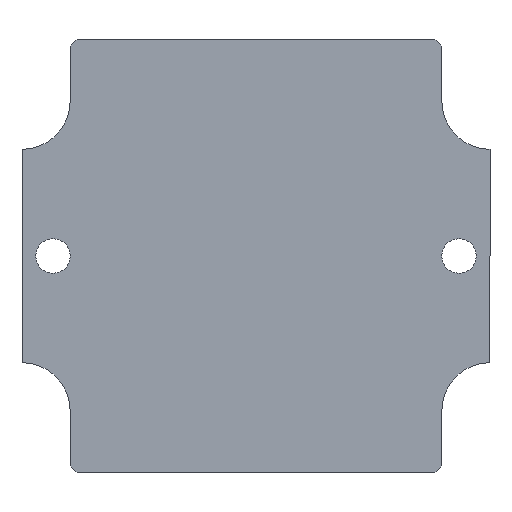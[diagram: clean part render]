
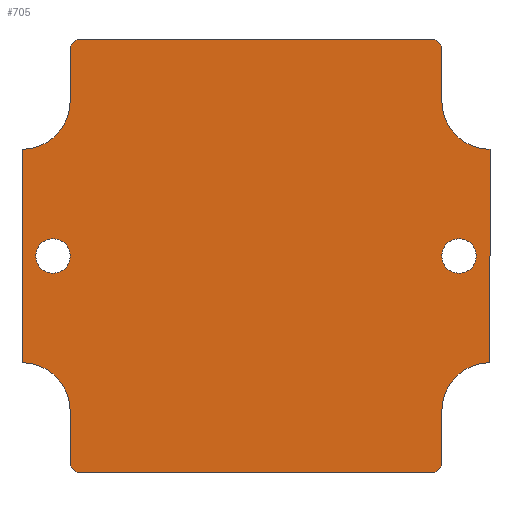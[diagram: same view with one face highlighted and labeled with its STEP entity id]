
A CAD part, top view. The second image highlights one B-rep face of the part: STEP entity #705.
In plain terms, the highlighted planar face has unit normal (0, 0, 1).
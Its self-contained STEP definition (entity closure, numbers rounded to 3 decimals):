
#49=CARTESIAN_POINT('',(28.825,18.216,0.5));
#50=VERTEX_POINT('',#49);
#51=CARTESIAN_POINT('',(29.825,17.216,0.5));
#52=VERTEX_POINT('',#51);
#53=CARTESIAN_POINT('',(28.825,18.216,0.5));
#54=DIRECTION('',(0.707,-0.707,0.0));
#55=VECTOR('',#54,1.414);
#56=LINE('',#53,#55);
#57=EDGE_CURVE('',#50,#52,#56,.T.);
#98=CARTESIAN_POINT('',(-23.175,18.216,0.5));
#99=VERTEX_POINT('',#98);
#106=CARTESIAN_POINT('',(-23.175,18.216,0.5));
#107=DIRECTION('',(1.0,0.0,0.0));
#108=VECTOR('',#107,52.0);
#109=LINE('',#106,#108);
#110=EDGE_CURVE('',#99,#50,#109,.T.);
#266=CARTESIAN_POINT('',(-23.175,-44.784,0.5));
#267=VERTEX_POINT('',#266);
#268=CARTESIAN_POINT('',(-24.175,-43.784,0.5));
#269=VERTEX_POINT('',#268);
#270=CARTESIAN_POINT('',(-23.175,-44.784,0.5));
#271=DIRECTION('',(-0.707,0.707,0.0));
#272=VECTOR('',#271,1.414);
#273=LINE('',#270,#272);
#274=EDGE_CURVE('',#267,#269,#273,.T.);
#299=CARTESIAN_POINT('',(28.825,-44.784,0.5));
#300=VERTEX_POINT('',#299);
#307=CARTESIAN_POINT('',(28.825,-44.784,0.5));
#308=DIRECTION('',(-1.0,0.0,0.0));
#309=VECTOR('',#308,52.);
#310=LINE('',#307,#309);
#311=EDGE_CURVE('',#300,#267,#310,.T.);
#321=CARTESIAN_POINT('',(29.825,-43.784,0.5));
#322=VERTEX_POINT('',#321);
#323=CARTESIAN_POINT('',(29.825,-43.784,0.5));
#324=DIRECTION('',(-0.707,-0.707,0.0));
#325=VECTOR('',#324,1.414);
#326=LINE('',#323,#325);
#327=EDGE_CURVE('',#322,#300,#326,.T.);
#347=CARTESIAN_POINT('',(29.825,-35.784,0.5));
#348=VERTEX_POINT('',#347);
#355=CARTESIAN_POINT('',(29.825,-35.784,0.5));
#356=DIRECTION('',(0.0,-1.0,0.0));
#357=VECTOR('',#356,8.);
#358=LINE('',#355,#357);
#359=EDGE_CURVE('',#348,#322,#358,.T.);
#369=CARTESIAN_POINT('',(-24.175,17.216,0.5));
#370=VERTEX_POINT('',#369);
#371=CARTESIAN_POINT('',(-24.175,17.216,0.5));
#372=DIRECTION('',(0.707,0.707,0.0));
#373=VECTOR('',#372,1.414);
#374=LINE('',#371,#373);
#375=EDGE_CURVE('',#370,#99,#374,.T.);
#417=CARTESIAN_POINT('',(-24.175,-13.284,0.5));
#418=VERTEX_POINT('',#417);
#419=CARTESIAN_POINT('',(-26.675,-13.284,0.5));
#420=DIRECTION('',(0.0,0.0,-1.0));
#421=DIRECTION('',(1.0,0.0,0.0));
#422=AXIS2_PLACEMENT_3D('',#419,#420,#421);
#423=CIRCLE('',#422,2.5);
#424=EDGE_CURVE('',#418,#418,#423,.T.);
#458=CARTESIAN_POINT('',(34.825,-13.284,0.5));
#459=VERTEX_POINT('',#458);
#460=CARTESIAN_POINT('',(32.325,-13.284,0.5));
#461=DIRECTION('',(0.0,0.0,-1.0));
#462=DIRECTION('',(1.0,0.0,0.0));
#463=AXIS2_PLACEMENT_3D('',#460,#461,#462);
#464=CIRCLE('',#463,2.5);
#465=EDGE_CURVE('',#459,#459,#464,.T.);
#475=CARTESIAN_POINT('',(29.825,9.216,0.5));
#476=VERTEX_POINT('',#475);
#477=CARTESIAN_POINT('',(36.825,2.216,0.5));
#478=VERTEX_POINT('',#477);
#479=CARTESIAN_POINT('',(36.825,9.216,0.5));
#480=DIRECTION('',(0.0,0.0,1.0));
#481=DIRECTION('',(1.0,0.0,0.0));
#482=AXIS2_PLACEMENT_3D('',#479,#480,#481);
#483=CIRCLE('',#482,7.);
#484=EDGE_CURVE('',#476,#478,#483,.T.);
#507=CARTESIAN_POINT('',(36.825,-28.784,0.5));
#508=VERTEX_POINT('',#507);
#509=CARTESIAN_POINT('',(36.825,2.216,0.5));
#510=DIRECTION('',(0.0,-1.0,0.0));
#511=VECTOR('',#510,31.0);
#512=LINE('',#509,#511);
#513=EDGE_CURVE('',#478,#508,#512,.T.);
#531=CARTESIAN_POINT('',(36.825,-35.784,0.5));
#532=DIRECTION('',(0.0,0.0,1.0));
#533=DIRECTION('',(0.0,-1.0,0.0));
#534=AXIS2_PLACEMENT_3D('',#531,#532,#533);
#535=CIRCLE('',#534,7.);
#536=EDGE_CURVE('',#508,#348,#535,.T.);
#550=CARTESIAN_POINT('',(-24.175,-35.784,0.5));
#551=VERTEX_POINT('',#550);
#552=CARTESIAN_POINT('',(-24.175,-43.784,0.5));
#553=DIRECTION('',(0.0,1.0,0.0));
#554=VECTOR('',#553,8.);
#555=LINE('',#552,#554);
#556=EDGE_CURVE('',#269,#551,#555,.T.);
#573=CARTESIAN_POINT('',(-31.175,-28.784,0.5));
#574=VERTEX_POINT('',#573);
#575=CARTESIAN_POINT('',(-31.175,-35.784,0.5));
#576=DIRECTION('',(0.0,0.0,1.0));
#577=DIRECTION('',(-1.0,0.0,0.0));
#578=AXIS2_PLACEMENT_3D('',#575,#576,#577);
#579=CIRCLE('',#578,7.);
#580=EDGE_CURVE('',#551,#574,#579,.T.);
#598=CARTESIAN_POINT('',(-31.175,2.216,0.5));
#599=VERTEX_POINT('',#598);
#600=CARTESIAN_POINT('',(-31.175,-28.784,0.5));
#601=DIRECTION('',(0.0,1.0,0.0));
#602=VECTOR('',#601,31.);
#603=LINE('',#600,#602);
#604=EDGE_CURVE('',#574,#599,#603,.T.);
#622=CARTESIAN_POINT('',(-24.175,9.216,0.5));
#623=VERTEX_POINT('',#622);
#624=CARTESIAN_POINT('',(-31.175,9.216,0.5));
#625=DIRECTION('',(0.0,0.0,1.0));
#626=DIRECTION('',(0.0,1.0,0.0));
#627=AXIS2_PLACEMENT_3D('',#624,#625,#626);
#628=CIRCLE('',#627,7.);
#629=EDGE_CURVE('',#599,#623,#628,.T.);
#650=CARTESIAN_POINT('',(-24.175,9.216,0.5));
#651=DIRECTION('',(0.0,1.0,0.0));
#652=VECTOR('',#651,8.);
#653=LINE('',#650,#652);
#654=EDGE_CURVE('',#623,#370,#653,.T.);
#665=CARTESIAN_POINT('',(29.825,17.216,0.5));
#666=DIRECTION('',(0.0,-1.0,0.0));
#667=VECTOR('',#666,8.0);
#668=LINE('',#665,#667);
#669=EDGE_CURVE('',#52,#476,#668,.T.);
#676=CARTESIAN_POINT('',(2.825,-13.284,0.5));
#677=DIRECTION('',(0.0,0.0,1.0));
#678=DIRECTION('',(1.0,0.0,0.0));
#679=AXIS2_PLACEMENT_3D('',#676,#677,#678);
#680=PLANE('',#679);
#681=ORIENTED_EDGE('',*,*,#57,.F.);
#682=ORIENTED_EDGE('',*,*,#110,.F.);
#683=ORIENTED_EDGE('',*,*,#375,.F.);
#684=ORIENTED_EDGE('',*,*,#654,.F.);
#685=ORIENTED_EDGE('',*,*,#629,.F.);
#686=ORIENTED_EDGE('',*,*,#604,.F.);
#687=ORIENTED_EDGE('',*,*,#580,.F.);
#688=ORIENTED_EDGE('',*,*,#556,.F.);
#689=ORIENTED_EDGE('',*,*,#274,.F.);
#690=ORIENTED_EDGE('',*,*,#311,.F.);
#691=ORIENTED_EDGE('',*,*,#327,.F.);
#692=ORIENTED_EDGE('',*,*,#359,.F.);
#693=ORIENTED_EDGE('',*,*,#536,.F.);
#694=ORIENTED_EDGE('',*,*,#513,.F.);
#695=ORIENTED_EDGE('',*,*,#484,.F.);
#696=ORIENTED_EDGE('',*,*,#669,.F.);
#697=EDGE_LOOP('',(#681,#682,#683,#684,#685,#686,#687,#688,#689,#690,#691,#692,#693,#694,#695,#696));
#698=FACE_OUTER_BOUND('',#697,.T.);
#699=ORIENTED_EDGE('',*,*,#424,.T.);
#700=EDGE_LOOP('',(#699));
#701=FACE_BOUND('',#700,.T.);
#702=ORIENTED_EDGE('',*,*,#465,.T.);
#703=EDGE_LOOP('',(#702));
#704=FACE_BOUND('',#703,.T.);
#705=ADVANCED_FACE('',(#698,#701,#704),#680,.T.);
